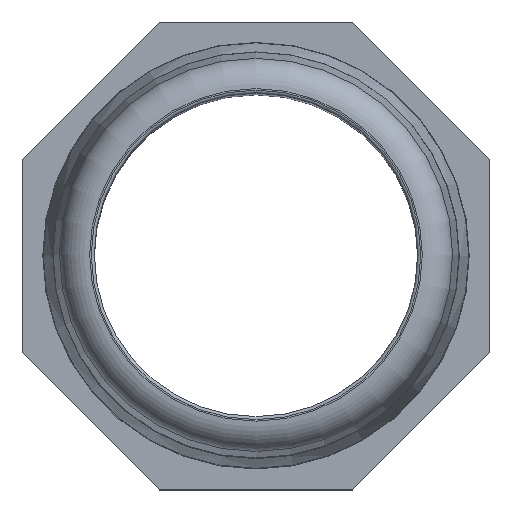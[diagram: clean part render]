
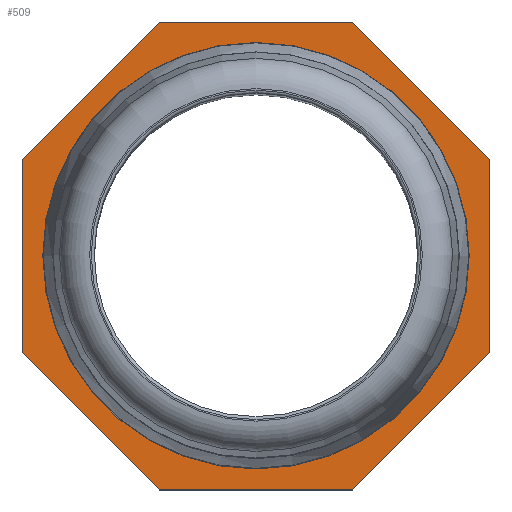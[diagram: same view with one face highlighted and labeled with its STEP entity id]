
A CAD part, top view. The second image highlights one B-rep face of the part: STEP entity #509.
In plain terms, the highlighted planar face has unit normal (0, 0, 1).
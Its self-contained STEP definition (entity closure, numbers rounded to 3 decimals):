
#15=LINE('',#847,#39);
#16=LINE('',#849,#40);
#17=LINE('',#851,#41);
#18=LINE('',#853,#42);
#19=LINE('',#855,#43);
#20=LINE('',#857,#44);
#21=LINE('',#859,#45);
#22=LINE('',#860,#46);
#39=VECTOR('',#712,19.054);
#40=VECTOR('',#713,19.054);
#41=VECTOR('',#714,19.054);
#42=VECTOR('',#715,19.054);
#43=VECTOR('',#716,19.054);
#44=VECTOR('',#717,19.054);
#45=VECTOR('',#718,19.054);
#46=VECTOR('',#719,19.054);
#79=PLANE('',#580);
#118=FACE_BOUND('',#218,.T.);
#149=FACE_OUTER_BOUND('',#217,.T.);
#217=EDGE_LOOP('',(#417,#418,#419,#420,#421,#422,#423,#424));
#218=EDGE_LOOP('',(#425));
#246=CIRCLE('',#555,20.);
#276=VERTEX_POINT('',#806);
#289=VERTEX_POINT('',#845);
#290=VERTEX_POINT('',#846);
#291=VERTEX_POINT('',#848);
#292=VERTEX_POINT('',#850);
#293=VERTEX_POINT('',#852);
#294=VERTEX_POINT('',#854);
#295=VERTEX_POINT('',#856);
#296=VERTEX_POINT('',#858);
#322=EDGE_CURVE('',#276,#276,#246,.T.);
#335=EDGE_CURVE('',#289,#290,#15,.T.);
#336=EDGE_CURVE('',#290,#291,#16,.T.);
#337=EDGE_CURVE('',#291,#292,#17,.T.);
#338=EDGE_CURVE('',#292,#293,#18,.T.);
#339=EDGE_CURVE('',#293,#294,#19,.T.);
#340=EDGE_CURVE('',#294,#295,#20,.T.);
#341=EDGE_CURVE('',#295,#296,#21,.T.);
#342=EDGE_CURVE('',#296,#289,#22,.T.);
#417=ORIENTED_EDGE('',*,*,#335,.T.);
#418=ORIENTED_EDGE('',*,*,#336,.T.);
#419=ORIENTED_EDGE('',*,*,#337,.T.);
#420=ORIENTED_EDGE('',*,*,#338,.T.);
#421=ORIENTED_EDGE('',*,*,#339,.T.);
#422=ORIENTED_EDGE('',*,*,#340,.T.);
#423=ORIENTED_EDGE('',*,*,#341,.T.);
#424=ORIENTED_EDGE('',*,*,#342,.T.);
#425=ORIENTED_EDGE('',*,*,#322,.F.);
#509=ADVANCED_FACE('',(#149,#118),#79,.T.);
#555=AXIS2_PLACEMENT_3D('',#807,#660,#661);
#580=AXIS2_PLACEMENT_3D('',#844,#710,#711);
#660=DIRECTION('center_axis',(0.,0.,1.));
#661=DIRECTION('ref_axis',(1.,0.,0.));
#710=DIRECTION('center_axis',(0.,0.,1.));
#711=DIRECTION('ref_axis',(1.,0.,0.));
#712=DIRECTION('',(-0.707,-0.707,0.));
#713=DIRECTION('',(0.,-1.,0.));
#714=DIRECTION('',(0.707,-0.707,0.));
#715=DIRECTION('',(1.,0.,0.));
#716=DIRECTION('',(0.707,0.707,0.));
#717=DIRECTION('',(0.,1.,0.));
#718=DIRECTION('',(-0.707,0.707,0.));
#719=DIRECTION('',(-1.,0.,0.));
#806=CARTESIAN_POINT('',(-20.,0.,40.));
#807=CARTESIAN_POINT('Origin',(0.,0.,40.));
#844=CARTESIAN_POINT('Origin',(0.,0.,
40.));
#845=CARTESIAN_POINT('',(-9.527,23.,40.));
#846=CARTESIAN_POINT('',(-23.,9.527,40.));
#847=CARTESIAN_POINT('',(-9.527,23.,40.));
#848=CARTESIAN_POINT('',(-23.,-9.527,40.));
#849=CARTESIAN_POINT('',(-23.,9.527,40.));
#850=CARTESIAN_POINT('',(-9.527,-23.,40.));
#851=CARTESIAN_POINT('',(-23.,-9.527,40.));
#852=CARTESIAN_POINT('',(9.527,-23.,40.));
#853=CARTESIAN_POINT('',(-9.527,-23.,40.));
#854=CARTESIAN_POINT('',(23.,-9.527,40.));
#855=CARTESIAN_POINT('',(9.527,-23.,40.));
#856=CARTESIAN_POINT('',(23.,9.527,40.));
#857=CARTESIAN_POINT('',(23.,-9.527,40.));
#858=CARTESIAN_POINT('',(9.527,23.,40.));
#859=CARTESIAN_POINT('',(23.,9.527,40.));
#860=CARTESIAN_POINT('',(9.527,23.,40.));
